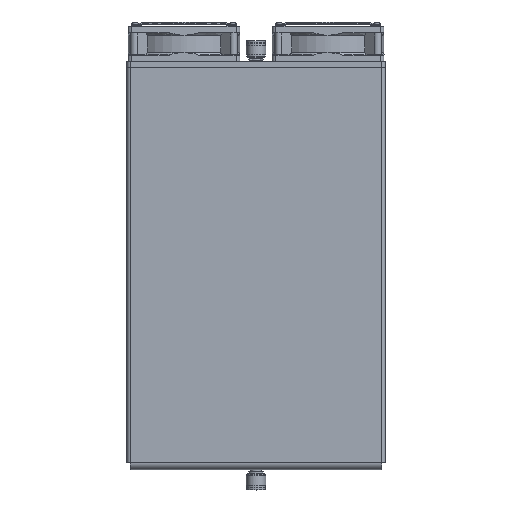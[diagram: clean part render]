
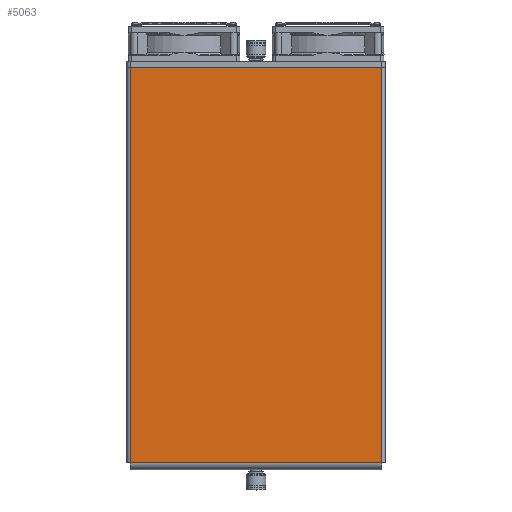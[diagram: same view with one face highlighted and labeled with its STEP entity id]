
A CAD part, top view. The second image highlights one B-rep face of the part: STEP entity #5063.
In plain terms, the highlighted planar face has unit normal (0, 0, 1).
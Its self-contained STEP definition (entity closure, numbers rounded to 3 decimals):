
#5063=ADVANCED_FACE('',(#21020),#21022,.T.);
#21020=FACE_BOUND('',#21021,.T.);
#21021=EDGE_LOOP('',(#38652,#38653,#38654,#38655));
#21022=PLANE('',#21023);
#21023=AXIS2_PLACEMENT_3D('',#21024,#21025,#21026);
#21024=CARTESIAN_POINT('',(0.,0.,121.5));
#21025=DIRECTION('',(0.,0.,1.));
#21026=DIRECTION('',(0.,-1.,0.));
#38652=ORIENTED_EDGE('',*,*,#47044,.T.);
#38653=ORIENTED_EDGE('',*,*,#47055,.T.);
#38654=ORIENTED_EDGE('',*,*,#47056,.T.);
#38655=ORIENTED_EDGE('',*,*,#47057,.T.);
#47044=EDGE_CURVE('',#52138,#52136,#52139,.T.);
#47055=EDGE_CURVE('',#52136,#52155,#52156,.T.);
#47056=EDGE_CURVE('',#52155,#52157,#52158,.T.);
#47057=EDGE_CURVE('',#52157,#52138,#52159,.T.);
#52136=VERTEX_POINT('',#61489);
#52138=VERTEX_POINT('',#61494);
#52139=LINE('',#61495,#61496);
#52155=VERTEX_POINT('',#61535);
#52156=LINE('',#61536,#61537);
#52157=VERTEX_POINT('',#61539);
#52158=LINE('',#61540,#61541);
#52159=LINE('',#61543,#61544);
#61489=CARTESIAN_POINT('',(135.,212.5,121.5));
#61494=CARTESIAN_POINT('',(135.,-212.5,121.5));
#61495=CARTESIAN_POINT('',(135.,-212.5,121.5));
#61496=VECTOR('',#61497,1.);
#61497=DIRECTION('',(0.,1.,0.));
#61535=CARTESIAN_POINT('',(-135.,212.5,121.5));
#61536=CARTESIAN_POINT('',(135.,212.5,121.5));
#61537=VECTOR('',#61538,1.);
#61538=DIRECTION('',(-1.,0.,0.));
#61539=CARTESIAN_POINT('',(-135.,-212.5,121.5));
#61540=CARTESIAN_POINT('',(-135.,212.5,121.5));
#61541=VECTOR('',#61542,1.);
#61542=DIRECTION('',(0.,-1.,0.));
#61543=CARTESIAN_POINT('',(-135.,-212.5,121.5));
#61544=VECTOR('',#61545,1.);
#61545=DIRECTION('',(1.,0.,0.));
